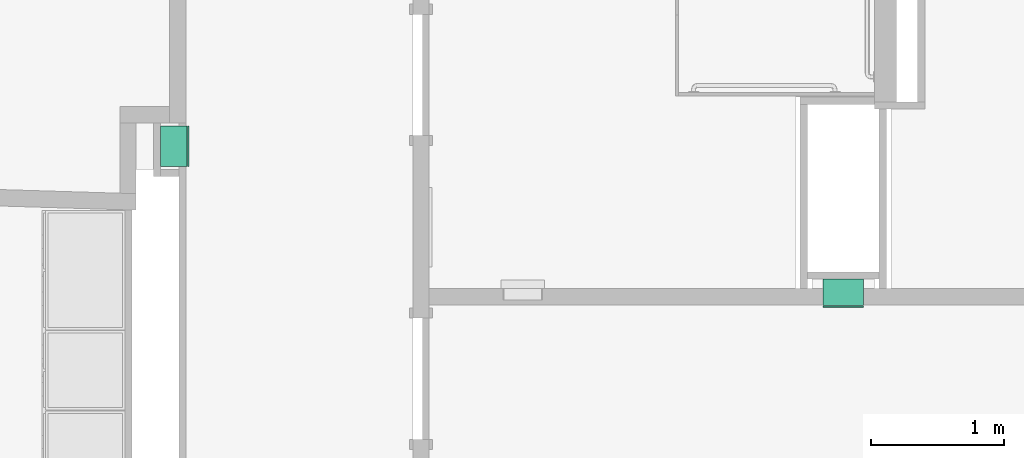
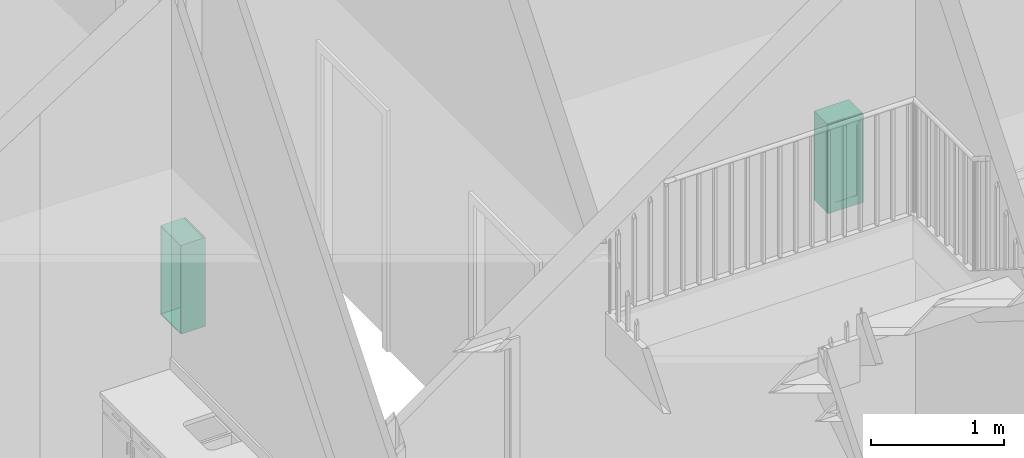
# One storey, part 71 of 87: 2 flow terminals.
"""IFC2X3 building model written with IfcOpenShell, lengths in metres."""

from ifc_helpers import new_model, entity, si_unit, converted_unit, frame, origin, origin_2d_with_axis, place, context, project, spatial, polyline, rectangle, outline, extrude, source, transform, mapped, type_object, type_shapes, element, save


model = new_model("IFC2X3")

# Units and contexts
model_context = context("Model", 3, precision=1e-09, world=origin())
plan_context = context("Plan", 3, precision=1e-09, world=origin())
ifc_project = project(units=[si_unit("LENGTHUNIT", "METRE"), si_unit("AREAUNIT", "SQUARE_METRE"), si_unit("VOLUMEUNIT", "CUBIC_METRE"), converted_unit("PLANEANGLEUNIT", "DEGREE", entity("IfcRatioMeasure", 0.01745329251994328), si_unit("PLANEANGLEUNIT", "RADIAN"), dimensions=[0, 0, 0, 0, 0, 0, 0]), si_unit("TIMEUNIT", "SECOND")], contexts=[model_context, plan_context])

# Site, building, storey, space
site_placement = place(None, origin())
site = spatial("IfcSite", under=ifc_project, at=site_placement, Name="Default", CompositionType="ELEMENT")
building_placement = place(site_placement, origin())
building = spatial("IfcBuilding", under=site, at=building_placement, CompositionType="ELEMENT")
storey_placement = place(building_placement, origin())
storey = spatial("IfcBuildingStorey", under=building, at=storey_placement, Name="First Floor", CompositionType="ELEMENT", Elevation=-3.531500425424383e-13)
space_1_placement = place(storey_placement, origin())
space_1 = spatial("IfcSpace", under=storey, at=space_1_placement, Name="1AC3", CompositionType="ELEMENT", InteriorOrExteriorSpace="INTERNAL")

# Flow terminal
sanitary_terminal_type = type_object("IfcSanitaryTerminalType", Name="305 x 215 x 813mm", PredefinedType="NOTDEFINED")
shared_shape = source(origin(), model_context, "Body", "SweptSolid", [
    extrude(outline(polyline([(-0.1525000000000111, -0.4064999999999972), (0.1525000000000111, -0.4064999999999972), (0.1525000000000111, 0.4064999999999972), (-0.1525000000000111, 0.4064999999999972), (-0.1525000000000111, -0.4064999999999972)]), holes=[polyline([(-0.1461500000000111, -0.4001499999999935), (-0.1461500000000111, 0.4001500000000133), (0.146150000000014, 0.4001500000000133), (0.146150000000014, -0.4001499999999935), (-0.1461500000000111, -0.4001499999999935)])]), frame((-0.1096484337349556, 0.02700000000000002, 1.321500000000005), z_axis=(0.0, 1.0, 0.0), x_axis=(1.0, 0.0, 0.0)), (0.0, 0.0, 1.0), 0.1991249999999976),
    extrude(rectangle(XDim=0.006350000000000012, YDim=0.1907000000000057, at=origin_2d_with_axis()), frame((-0.1096484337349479, 0.2356499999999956, 0.9975499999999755), z_axis=(0.0, 0.0, 1.0), x_axis=(0.0, -1.0, 0.0)), (0.0, 0.0, 1.0), 0.6479000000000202),
    extrude(outline(polyline([(-0.1525000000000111, -0.4064999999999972), (0.1525000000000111, -0.4064999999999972), (0.1525000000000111, 0.4064999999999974), (-0.1525000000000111, 0.4064999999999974), (-0.1525000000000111, -0.4064999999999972)]), holes=[polyline([(-0.0953499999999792, -0.3239499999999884), (-0.0953499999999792, 0.3239500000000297), (0.09535000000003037, 0.3239500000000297), (0.09535000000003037, -0.3239499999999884), (-0.0953499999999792, -0.3239499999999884)])]), frame((-0.1096484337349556, 0.229299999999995, 1.321500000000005), z_axis=(0.0, 1.0, 0.0), x_axis=(1.0, 0.0, 0.0)), (0.0, 0.0, 1.0), 0.01269999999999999),
])
type_shapes(sanitary_terminal_type, [shared_shape])
flow_terminal_1_placement = place(space_1_placement, frame((-20.04850000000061, 45.07535156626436, 0.0), z_axis=(0.0, 0.0, 1.0), x_axis=(0.0, -1.0, 0.0)))
element("IfcFlowTerminal", 1, at=flow_terminal_1_placement, inside=space_1, type_object=sanitary_terminal_type, Name="M_Fire Extinguisher Cabinet:305 x 215 x 813mm:305 x 215 x 813mm", ObjectType="305 x 215 x 813mm", context=model_context, shape_type="MappedRepresentation", body=[
    mapped(shared_shape, transform((0.0, 0.0, 0.0), scale=1.0)),
])

# Space
space_2_placement = place(storey_placement, origin())
space_2 = spatial("IfcSpace", under=storey, at=space_2_placement, Name="1AC4", CompositionType="ELEMENT", InteriorOrExteriorSpace="INTERNAL")

# Flow terminal
flow_terminal_2_placement = place(space_2_placement, frame((-14.98464843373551, 44.21099999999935, 0.0), z_axis=(0.0, 0.0, 1.0), x_axis=(-1.0, 0.0, 0.0)))
element("IfcFlowTerminal", 2, at=flow_terminal_2_placement, inside=space_2, type_object=sanitary_terminal_type, Name="M_Fire Extinguisher Cabinet:305 x 215 x 813mm:305 x 215 x 813mm", ObjectType="305 x 215 x 813mm", context=model_context, shape_type="MappedRepresentation", body=[
    mapped(shared_shape, transform((0.0, 0.0, 0.0), scale=1.0)),
])

save(model, "model.ifc")
